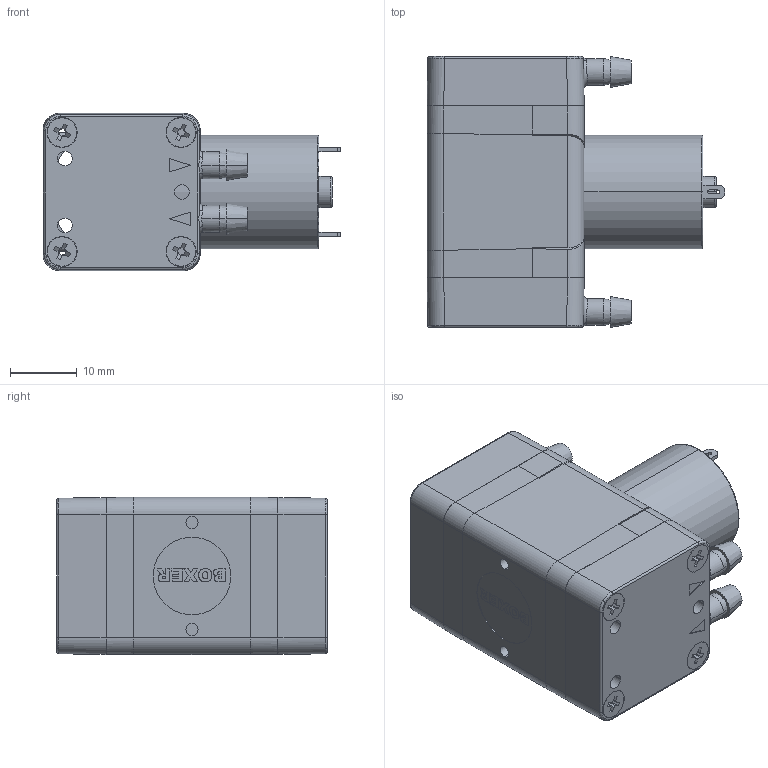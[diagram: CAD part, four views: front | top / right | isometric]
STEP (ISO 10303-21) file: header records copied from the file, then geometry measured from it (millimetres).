
FILE_DESCRIPTION (( 'STEP AP203' ), '1' );
FILE_NAME ('22KD IronCore.STEP', '2016-10-09T10:54:01', ( '' ), ( '' ), 'SwSTEP 2.0', 'SolidWorks 2014', '' );
FILE_SCHEMA (( 'CONFIG_CONTROL_DESIGN' ));
Length unit declared in the file: millimetre
Products named in the file (1): 22KD IronCore
Bounding box: 44.55 x 40.5 x 23.5 mm (x, y, z)
Surface area: 8941.9 mm2 (no closed solid volume)
Topology: 0 solids, 13 shells, 467 faces, 1506 edges, 1056 vertices
Faces by surface type: plane 239, cylinder 110, cone 68, bspline 46, torus 4
Entity records: 18533 total; most frequent: CARTESIAN_POINT 5726, DIRECTION 2518, ORIENTED_EDGE 2498, EDGE_CURVE 1506, VERTEX_POINT 1056, VECTOR 842, LINE 842, AXIS2_PLACEMENT_3D 838
